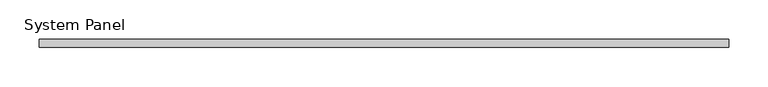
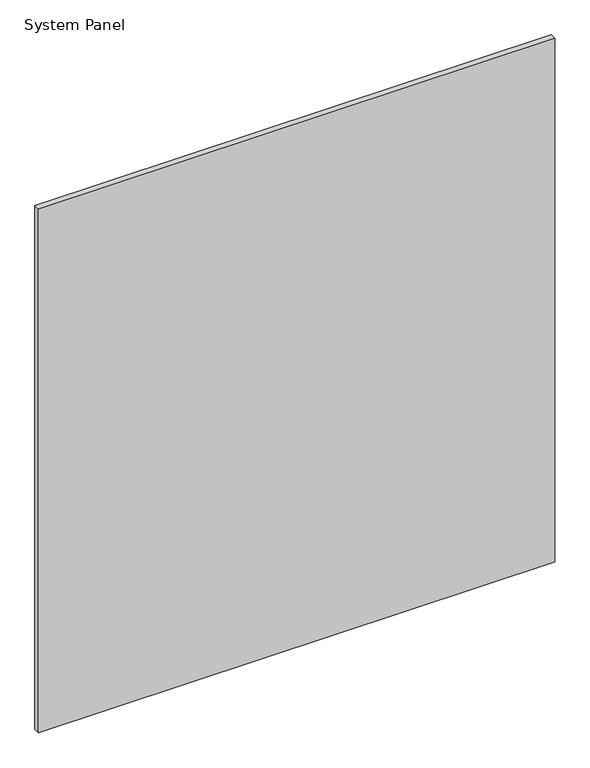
"""IFC4 building model written with IfcOpenShell, lengths in millimetres: plate geometry, System Panel : MALLA ACMA."""

from ifc_helpers import new_model, si_unit, origin, origin_with_axes, place, context, project, spatial, polyline, outline, extrude, source, transform, mapped, element, save


def system_panel_932d7ef2(model_context):
    return source(origin(), model_context, "Body", "SweptSolid", [
        extrude(outline(polyline([(438.3373512, -5.0), (-438.3373512, -5.0), (-438.3373512, 5.0), (438.3373512, 5.0), (438.3373512, -5.0)])), origin_with_axes(), (0.0, 0.0, 1.0), 940.0),
    ])


if __name__ == "__main__":
    model = new_model("IFC4")
    model_context = context("Model", 3, world=origin())
    ifc_project = project(units=[si_unit("LENGTHUNIT", "METRE", prefix="MILLI")], contexts=[model_context])
    site = spatial("IfcSite", under=ifc_project)
    building = spatial("IfcBuilding", under=site)
    placement = place(None, origin())
    system_panel_shape = system_panel_932d7ef2(model_context)
    element("IfcPlate", 1, ObjectType="System Panel : MALLA ACMA", at=placement, inside=building, context=model_context, shape_type="MappedRepresentation", body=[
        mapped(system_panel_shape, transform((0.0, 0.0, 0.0), x_axis=(1.0, 0.0, 0.0), y_axis=(0.0, 1.0, 0.0), z_axis=(0.0, 0.0, 1.0))),
    ])
    save(model, "model.ifc")
